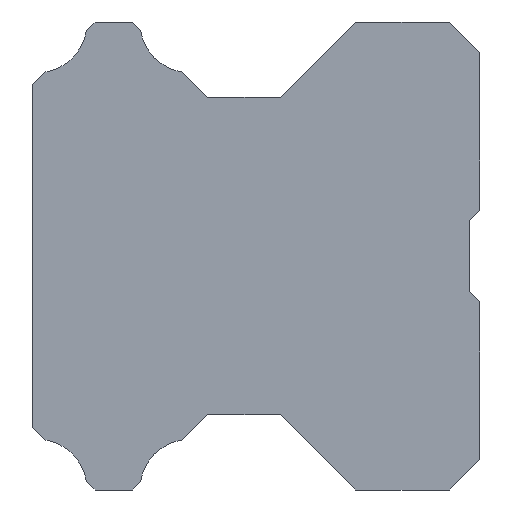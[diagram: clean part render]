
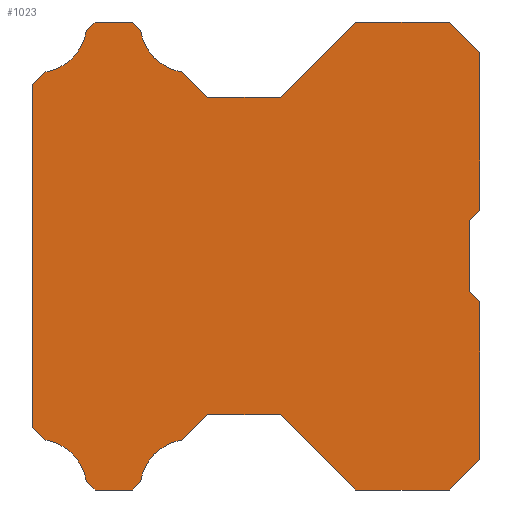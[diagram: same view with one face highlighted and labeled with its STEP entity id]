
A CAD part, left-side view. The second image highlights one B-rep face of the part: STEP entity #1023.
In plain terms, the highlighted planar face has unit normal (-1, 0, 0).
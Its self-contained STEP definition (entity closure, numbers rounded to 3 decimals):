
#48=CIRCLE('',#1107,2.48);
#50=CIRCLE('',#1113,2.48);
#56=CIRCLE('',#1123,2.48);
#58=CIRCLE('',#1129,2.48);
#87=LINE('',#1549,#179);
#89=LINE('',#1555,#181);
#91=LINE('',#1561,#183);
#93=LINE('',#1565,#185);
#97=LINE('',#1574,#189);
#100=LINE('',#1580,#192);
#104=LINE('',#1590,#196);
#106=LINE('',#1598,#198);
#109=LINE('',#1606,#201);
#112=LINE('',#1612,#204);
#115=LINE('',#1618,#207);
#118=LINE('',#1624,#210);
#121=LINE('',#1630,#213);
#125=LINE('',#1642,#217);
#128=LINE('',#1648,#220);
#131=LINE('',#1654,#223);
#135=LINE('',#1666,#227);
#138=LINE('',#1680,#230);
#141=LINE('',#1686,#233);
#145=LINE('',#1698,#237);
#148=LINE('',#1704,#240);
#151=LINE('',#1710,#243);
#155=LINE('',#1722,#247);
#158=LINE('',#1728,#250);
#179=VECTOR('',#1242,1000.);
#181=VECTOR('',#1248,1000.);
#183=VECTOR('',#1254,1000.);
#185=VECTOR('',#1258,1000.);
#189=VECTOR('',#1264,1000.);
#192=VECTOR('',#1269,1000.);
#196=VECTOR('',#1281,1000.);
#198=VECTOR('',#1295,1000.);
#201=VECTOR('',#1304,1000.);
#204=VECTOR('',#1309,1000.);
#207=VECTOR('',#1314,1000.);
#210=VECTOR('',#1319,1000.);
#213=VECTOR('',#1324,1000.);
#217=VECTOR('',#1336,1000.);
#220=VECTOR('',#1341,1000.);
#223=VECTOR('',#1346,1000.);
#227=VECTOR('',#1358,1000.);
#230=VECTOR('',#1371,1000.);
#233=VECTOR('',#1376,1000.);
#237=VECTOR('',#1388,1000.);
#240=VECTOR('',#1393,1000.);
#243=VECTOR('',#1398,1000.);
#247=VECTOR('',#1410,1000.);
#250=VECTOR('',#1415,1000.);
#460=ORIENTED_EDGE('',*,*,#588,.F.);
#461=ORIENTED_EDGE('',*,*,#674,.F.);
#462=ORIENTED_EDGE('',*,*,#671,.F.);
#463=ORIENTED_EDGE('',*,*,#668,.T.);
#464=ORIENTED_EDGE('',*,*,#665,.F.);
#465=ORIENTED_EDGE('',*,*,#662,.F.);
#466=ORIENTED_EDGE('',*,*,#659,.F.);
#467=ORIENTED_EDGE('',*,*,#656,.T.);
#468=ORIENTED_EDGE('',*,*,#653,.F.);
#469=ORIENTED_EDGE('',*,*,#650,.F.);
#470=ORIENTED_EDGE('',*,*,#643,.F.);
#471=ORIENTED_EDGE('',*,*,#640,.T.);
#472=ORIENTED_EDGE('',*,*,#637,.F.);
#473=ORIENTED_EDGE('',*,*,#634,.F.);
#474=ORIENTED_EDGE('',*,*,#631,.F.);
#475=ORIENTED_EDGE('',*,*,#628,.T.);
#476=ORIENTED_EDGE('',*,*,#625,.F.);
#477=ORIENTED_EDGE('',*,*,#622,.F.);
#478=ORIENTED_EDGE('',*,*,#619,.F.);
#479=ORIENTED_EDGE('',*,*,#616,.F.);
#480=ORIENTED_EDGE('',*,*,#613,.F.);
#481=ORIENTED_EDGE('',*,*,#608,.F.);
#482=ORIENTED_EDGE('',*,*,#586,.F.);
#483=ORIENTED_EDGE('',*,*,#583,.F.);
#484=ORIENTED_EDGE('',*,*,#580,.F.);
#485=ORIENTED_EDGE('',*,*,#602,.F.);
#486=ORIENTED_EDGE('',*,*,#595,.F.);
#487=ORIENTED_EDGE('',*,*,#592,.F.);
#580=EDGE_CURVE('',#718,#719,#87,.T.);
#583=EDGE_CURVE('',#719,#721,#89,.T.);
#586=EDGE_CURVE('',#721,#723,#91,.T.);
#588=EDGE_CURVE('',#724,#725,#93,.T.);
#592=EDGE_CURVE('',#725,#728,#97,.T.);
#595=EDGE_CURVE('',#728,#730,#100,.T.);
#602=EDGE_CURVE('',#730,#718,#104,.T.);
#608=EDGE_CURVE('',#723,#732,#106,.T.);
#613=EDGE_CURVE('',#732,#734,#109,.T.);
#616=EDGE_CURVE('',#734,#736,#112,.T.);
#619=EDGE_CURVE('',#736,#738,#115,.T.);
#622=EDGE_CURVE('',#738,#740,#118,.T.);
#625=EDGE_CURVE('',#740,#742,#121,.T.);
#628=EDGE_CURVE('',#744,#742,#48,.T.);
#631=EDGE_CURVE('',#744,#746,#125,.T.);
#634=EDGE_CURVE('',#746,#748,#128,.T.);
#637=EDGE_CURVE('',#748,#750,#131,.T.);
#640=EDGE_CURVE('',#752,#750,#50,.T.);
#643=EDGE_CURVE('',#752,#754,#135,.T.);
#650=EDGE_CURVE('',#754,#760,#138,.T.);
#653=EDGE_CURVE('',#760,#762,#141,.T.);
#656=EDGE_CURVE('',#764,#762,#56,.T.);
#659=EDGE_CURVE('',#764,#766,#145,.T.);
#662=EDGE_CURVE('',#766,#768,#148,.T.);
#665=EDGE_CURVE('',#768,#770,#151,.T.);
#668=EDGE_CURVE('',#772,#770,#58,.T.);
#671=EDGE_CURVE('',#772,#774,#155,.T.);
#674=EDGE_CURVE('',#774,#724,#158,.T.);
#718=VERTEX_POINT('',#1548);
#719=VERTEX_POINT('',#1550);
#721=VERTEX_POINT('',#1556);
#723=VERTEX_POINT('',#1562);
#724=VERTEX_POINT('',#1566);
#725=VERTEX_POINT('',#1567);
#728=VERTEX_POINT('',#1575);
#730=VERTEX_POINT('',#1581);
#732=VERTEX_POINT('',#1599);
#734=VERTEX_POINT('',#1607);
#736=VERTEX_POINT('',#1613);
#738=VERTEX_POINT('',#1619);
#740=VERTEX_POINT('',#1625);
#742=VERTEX_POINT('',#1631);
#744=VERTEX_POINT('',#1637);
#746=VERTEX_POINT('',#1643);
#748=VERTEX_POINT('',#1649);
#750=VERTEX_POINT('',#1655);
#752=VERTEX_POINT('',#1661);
#754=VERTEX_POINT('',#1667);
#760=VERTEX_POINT('',#1681);
#762=VERTEX_POINT('',#1687);
#764=VERTEX_POINT('',#1693);
#766=VERTEX_POINT('',#1699);
#768=VERTEX_POINT('',#1705);
#770=VERTEX_POINT('',#1711);
#772=VERTEX_POINT('',#1717);
#774=VERTEX_POINT('',#1723);
#845=EDGE_LOOP('',(#460,#461,#462,#463,#464,#465,#466,#467,#468,#469,#470,
#471,#472,#473,#474,#475,#476,#477,#478,#479,#480,#481,#482,#483,#484,#485,
#486,#487));
#915=FACE_BOUND('',#845,.T.);
#977=PLANE('',#1134);
#1023=ADVANCED_FACE('',(#915),#977,.F.);
#1107=AXIS2_PLACEMENT_3D('',#1636,#1329,#1330);
#1113=AXIS2_PLACEMENT_3D('',#1660,#1351,#1352);
#1123=AXIS2_PLACEMENT_3D('',#1692,#1381,#1382);
#1129=AXIS2_PLACEMENT_3D('',#1716,#1403,#1404);
#1134=AXIS2_PLACEMENT_3D('',#1731,#1419,#1420);
#1242=DIRECTION('',(0.,0.707,-0.707));
#1248=DIRECTION('',(0.,0.,-1.));
#1254=DIRECTION('',(0.,-0.707,-0.707));
#1258=DIRECTION('',(0.,-0.707,0.707));
#1264=DIRECTION('',(0.,-1.,0.));
#1269=DIRECTION('',(0.,-0.707,-0.707));
#1281=DIRECTION('',(0.,0.,-1.));
#1295=DIRECTION('',(0.,0.,-1.));
#1304=DIRECTION('',(0.,0.707,-0.707));
#1309=DIRECTION('',(0.,1.,0.));
#1314=DIRECTION('',(0.,0.707,0.707));
#1319=DIRECTION('',(0.,1.,0.));
#1324=DIRECTION('',(0.,0.707,-0.707));
#1329=DIRECTION('',(1.,0.,0.));
#1330=DIRECTION('',(0.,0.,-1.));
#1336=DIRECTION('',(0.,0.707,-0.707));
#1341=DIRECTION('',(0.,1.,0.));
#1346=DIRECTION('',(0.,0.707,0.707));
#1351=DIRECTION('',(1.,0.,0.));
#1352=DIRECTION('',(0.,0.,-1.));
#1358=DIRECTION('',(0.,0.707,0.707));
#1371=DIRECTION('',(0.,0.,1.));
#1376=DIRECTION('',(0.,-0.707,0.707));
#1381=DIRECTION('',(1.,0.,0.));
#1382=DIRECTION('',(0.,0.,-1.));
#1388=DIRECTION('',(0.,-0.707,0.707));
#1393=DIRECTION('',(0.,-1.,0.));
#1398=DIRECTION('',(0.,-0.707,-0.707));
#1403=DIRECTION('',(1.,0.,0.));
#1404=DIRECTION('',(0.,0.,-1.));
#1410=DIRECTION('',(0.,-0.707,-0.707));
#1415=DIRECTION('',(0.,-1.,0.));
#1419=DIRECTION('',(1.,0.,0.));
#1420=DIRECTION('',(0.,0.,-1.));
#1548=CARTESIAN_POINT('',(-20.,0.,2.25));
#1549=CARTESIAN_POINT('',(-20.,0.,2.25));
#1550=CARTESIAN_POINT('',(-20.,0.5,1.75));
#1555=CARTESIAN_POINT('',(-20.,0.5,1.75));
#1556=CARTESIAN_POINT('',(-20.,0.5,-1.75));
#1561=CARTESIAN_POINT('',(-20.,0.5,-1.75));
#1562=CARTESIAN_POINT('',(-20.,0.,-2.25));
#1565=CARTESIAN_POINT('',(-20.,9.8,7.8));
#1566=CARTESIAN_POINT('',(-20.,9.8,7.8));
#1567=CARTESIAN_POINT('',(-20.,6.1,11.5));
#1574=CARTESIAN_POINT('',(-20.,6.1,11.5));
#1575=CARTESIAN_POINT('',(-20.,1.5,11.5));
#1580=CARTESIAN_POINT('',(-20.,1.5,11.5));
#1581=CARTESIAN_POINT('',(-20.,0.,10.));
#1590=CARTESIAN_POINT('',(-20.,0.,10.));
#1598=CARTESIAN_POINT('',(-20.,0.,-2.25));
#1599=CARTESIAN_POINT('',(-20.,0.,-10.));
#1606=CARTESIAN_POINT('',(-20.,0.,-10.));
#1607=CARTESIAN_POINT('',(-20.,1.5,-11.5));
#1612=CARTESIAN_POINT('',(-20.,1.5,-11.5));
#1613=CARTESIAN_POINT('',(-20.,6.1,-11.5));
#1618=CARTESIAN_POINT('',(-20.,6.1,-11.5));
#1619=CARTESIAN_POINT('',(-20.,9.8,-7.8));
#1624=CARTESIAN_POINT('',(-20.,9.8,-7.8));
#1625=CARTESIAN_POINT('',(-20.,13.38,-7.8));
#1630=CARTESIAN_POINT('',(-20.,13.38,-7.8));
#1631=CARTESIAN_POINT('',(-20.,14.61,-9.031));
#1636=CARTESIAN_POINT('',(-20.,14.222,-11.48));
#1637=CARTESIAN_POINT('',(-20.,16.671,-11.091));
#1642=CARTESIAN_POINT('',(-20.,16.671,-11.091));
#1643=CARTESIAN_POINT('',(-20.,17.08,-11.5));
#1648=CARTESIAN_POINT('',(-20.,17.08,-11.5));
#1649=CARTESIAN_POINT('',(-20.,18.91,-11.5));
#1654=CARTESIAN_POINT('',(-20.,18.91,-11.5));
#1655=CARTESIAN_POINT('',(-20.,19.333,-11.077));
#1660=CARTESIAN_POINT('',(-20.,21.78,-11.48));
#1661=CARTESIAN_POINT('',(-20.,21.377,-9.033));
#1666=CARTESIAN_POINT('',(-20.,21.377,-9.033));
#1667=CARTESIAN_POINT('',(-20.,22.,-8.41));
#1680=CARTESIAN_POINT('',(-20.,22.,-8.41));
#1681=CARTESIAN_POINT('',(-20.,22.,8.41));
#1686=CARTESIAN_POINT('',(-20.,22.,8.41));
#1687=CARTESIAN_POINT('',(-20.,21.377,9.033));
#1692=CARTESIAN_POINT('',(-20.,21.78,11.48));
#1693=CARTESIAN_POINT('',(-20.,19.333,11.077));
#1698=CARTESIAN_POINT('',(-20.,19.333,11.077));
#1699=CARTESIAN_POINT('',(-20.,18.91,11.5));
#1704=CARTESIAN_POINT('',(-20.,18.91,11.5));
#1705=CARTESIAN_POINT('',(-20.,17.08,11.5));
#1710=CARTESIAN_POINT('',(-20.,17.08,11.5));
#1711=CARTESIAN_POINT('',(-20.,16.671,11.091));
#1716=CARTESIAN_POINT('',(-20.,14.222,11.48));
#1717=CARTESIAN_POINT('',(-20.,14.61,9.031));
#1722=CARTESIAN_POINT('',(-20.,14.61,9.031));
#1723=CARTESIAN_POINT('',(-20.,13.38,7.8));
#1728=CARTESIAN_POINT('',(-20.,13.38,7.8));
#1731=CARTESIAN_POINT('',(-20.,14.222,-11.48));
